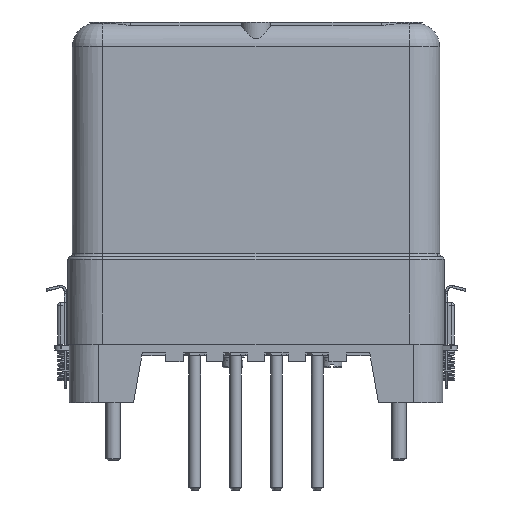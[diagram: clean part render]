
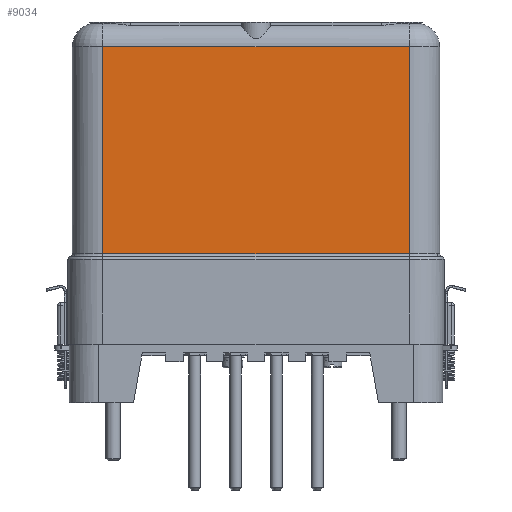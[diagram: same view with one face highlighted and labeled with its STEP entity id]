
A CAD part, left-side view. The second image highlights one B-rep face of the part: STEP entity #9034.
In plain terms, the highlighted planar face has unit normal (-1, 0, 0).
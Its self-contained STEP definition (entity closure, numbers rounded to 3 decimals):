
#9034=ADVANCED_FACE('',(#19877),#19879,.T.);
#19877=FACE_BOUND('',#19878,.T.);
#19878=EDGE_LOOP('',(#33672,#33673,#33674,#33675));
#19879=PLANE('',#19880);
#19880=AXIS2_PLACEMENT_3D('',#19881,#19882,#19883);
#19881=CARTESIAN_POINT('',(-44.5,52.5,50.));
#19882=DIRECTION('',(-1.,0.,0.));
#19883=DIRECTION('',(0.,-1.,0.));
#33672=ORIENTED_EDGE('',*,*,#37021,.T.);
#33673=ORIENTED_EDGE('',*,*,#37017,.T.);
#33674=ORIENTED_EDGE('',*,*,#37248,.F.);
#33675=ORIENTED_EDGE('',*,*,#37022,.F.);
#37017=EDGE_CURVE('',#41505,#41509,#41511,.T.);
#37021=EDGE_CURVE('',#41513,#41505,#41516,.T.);
#37022=EDGE_CURVE('',#41513,#41517,#41518,.T.);
#37248=EDGE_CURVE('',#41517,#41509,#41870,.T.);
#41505=VERTEX_POINT('',#53289);
#41509=VERTEX_POINT('',#53298);
#41511=LINE('',#53303,#53304);
#41513=VERTEX_POINT('',#53310);
#41516=LINE('',#53319,#53320);
#41517=VERTEX_POINT('',#53322);
#41518=LINE('',#53323,#53324);
#41870=LINE('',#54526,#54527);
#53289=CARTESIAN_POINT('',(-44.5,-52.5,51.));
#53298=CARTESIAN_POINT('',(-44.5,-52.5,122.));
#53303=CARTESIAN_POINT('',(-44.5,-52.5,51.));
#53304=VECTOR('',#53305,1.);
#53305=DIRECTION('',(0.,0.,1.));
#53310=CARTESIAN_POINT('',(-44.5,52.5,51.));
#53319=CARTESIAN_POINT('',(-44.5,52.5,51.));
#53320=VECTOR('',#53321,1.);
#53321=DIRECTION('',(0.,-1.,0.));
#53322=CARTESIAN_POINT('',(-44.5,52.5,122.));
#53323=CARTESIAN_POINT('',(-44.5,52.5,51.));
#53324=VECTOR('',#53325,1.);
#53325=DIRECTION('',(0.,0.,1.));
#54526=CARTESIAN_POINT('',(-44.5,52.5,122.));
#54527=VECTOR('',#54528,1.);
#54528=DIRECTION('',(0.,-1.,0.));
